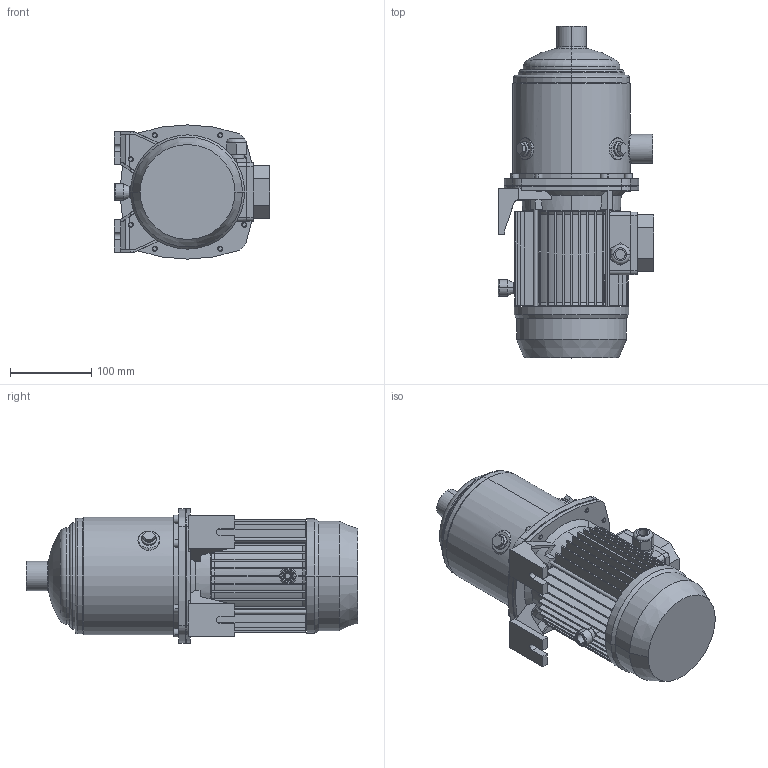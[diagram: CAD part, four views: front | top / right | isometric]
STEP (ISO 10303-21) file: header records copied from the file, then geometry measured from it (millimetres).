
FILE_DESCRIPTION((''),'2;1');
FILE_NAME('MATRIX_3-5T_0_75_IE2_ASM','2011-10-10T',('Utente'),('"Ebara Pumps Europe +39.444.706811"'),'PRO/ENGINEER BY PARAMETRIC TECHNOLOGY CORPORATION, 2009360','PRO/ENGINEER BY PARAMETRIC TECHNOLOGY CORPORATION, 2009360','');
FILE_SCHEMA(('AUTOMOTIVE_DESIGN { 1 0 10303 214 1 1 1 1 }'));
Length unit declared in the file: millimetre
Products named in the file (5): CORPO_POMPA_MATRIX_3-5; SUPPORTO_MATRIX_MEC_71; MEC_71X90_IE2; 72228; MATRIX_3-5T_0_75_IE2_ASM
Assembly tree (4 placements, depth 2):
  MATRIX_3-5T_0_75_IE2_ASM
    CORPO_POMPA_MATRIX_3-5
    SUPPORTO_MATRIX_MEC_71
    MEC_71X90_IE2
    72228
Bounding box: 191 x 407.8 x 165 mm (x, y, z)
Volume: 4374064.8 mm3; surface area: 481491 mm2
Topology: 4 solids, 4 shells, 679 faces, 1638 edges, 1014 vertices
Faces by surface type: plane 355, cylinder 184, cone 108, torus 28, sphere 2, bspline 2
Entity records: 26514 total; most frequent: CARTESIAN_POINT 4530, DIRECTION 3472, ORIENTED_EDGE 3276, EDGE_CURVE 1638, PRESENTATION_STYLE_ASSIGNMENT 1591, STYLED_ITEM 1591, CURVE_STYLE 1588, AXIS2_PLACEMENT_3D 1326
